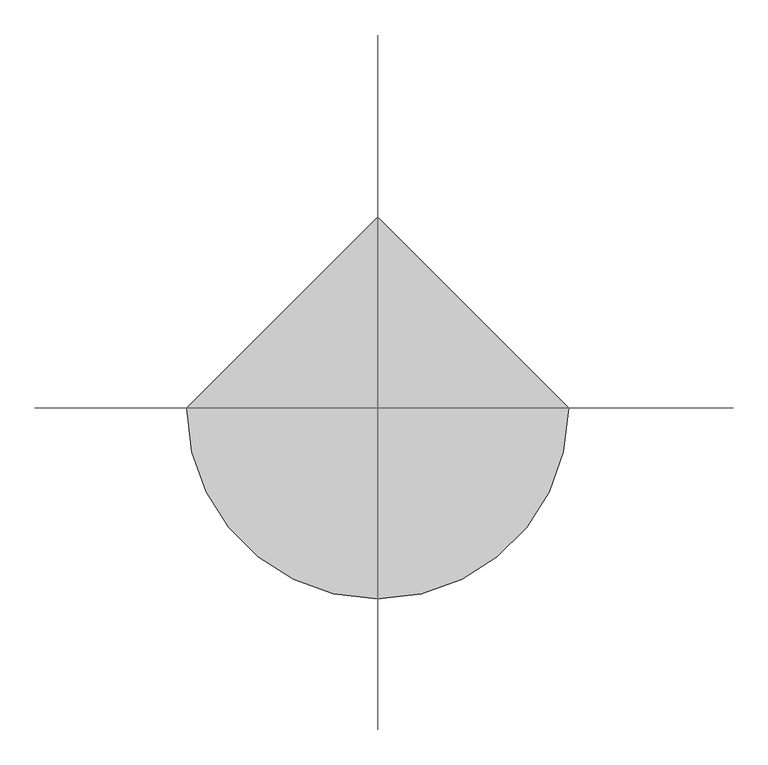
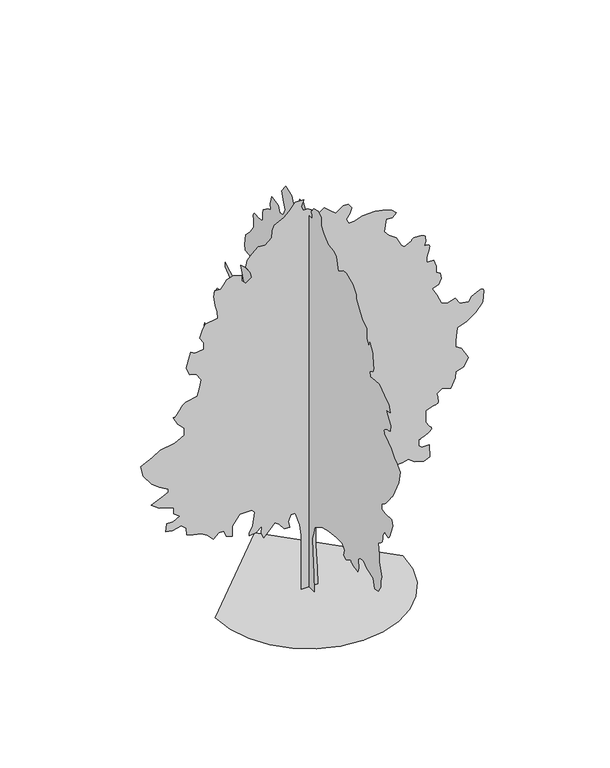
"""IFC4 building model written with IfcOpenShell, lengths in millimetres: geographic element geometry, RPC 树 - 落叶树 : 红枫 - 9 米."""

import ifcopenshell
import ifcopenshell.guid

model = None  # the IFC model being written
_history = None  # IfcOwnerHistory: only IFC2X3 demands one
_inside = {}  # id of a spatial element -> (the spatial element, [elements in it])
_under = {}  # id of a project, library or spatial element -> (it, [spatial elements below it])
_declared = {}  # id of a project -> (the project, [libraries it declares])
_typed = {}  # id of a type object -> (the type object, [elements of that type])
_made_of = {}  # id of a material, layer set ... -> (it, [elements and type objects made of it])


def new_model(schema):
    """Start an empty IFC model of exactly this schema.

    Asked for "IFC4X3", IfcOpenShell would pick the latest addendum, in which some entities
    have other attributes; the version numbers below select the first issue.
    IFC2X3 requires an IfcOwnerHistory on every rooted entity: one is made here for all.
    """
    global model, _history
    if schema == "IFC4X3":
        model = ifcopenshell.file(schema_version=(4, 3, 0, 0))
    else:
        model = ifcopenshell.file(schema=schema)
    _inside.clear()
    _under.clear()
    _declared.clear()
    _typed.clear()
    _made_of.clear()
    _history = None
    if model.schema == "IFC2X3":
        org = make("IfcOrganization", Name="unknown")
        user = make(
            "IfcPersonAndOrganization",
            ThePerson=make("IfcPerson", FamilyName="unknown"),
            TheOrganization=org,
        )
        app = make(
            "IfcApplication",
            ApplicationDeveloper=org,
            Version="unknown",
            ApplicationFullName="unknown",
            ApplicationIdentifier="unknown",
        )
        _history = make(
            "IfcOwnerHistory",
            OwningUser=user,
            OwningApplication=app,
            ChangeAction="ADDED",
            CreationDate=0,
        )
    return model


def make(cls, **values):
    """One entity of the class cls with the attributes given. An attribute that is None is left unset."""
    return model.create_entity(
        cls, **{name: value for name, value in values.items() if value is not None}
    )


def rooted(cls, **values):
    """An entity with a GlobalId (a new one), such as an element, a storey or a relation."""
    return make(cls, GlobalId=ifcopenshell.guid.new(), OwnerHistory=_history, **values)


def si_unit(unit_type, name, prefix=None):
    """IfcSIUnit, for example si_unit("LENGTHUNIT", "METRE", prefix="MILLI")."""
    return make("IfcSIUnit", UnitType=unit_type, Prefix=prefix, Name=name)


def assignment(units):
    """IfcUnitAssignment: the units of a project."""
    return None if units is None else make("IfcUnitAssignment", Units=units)


def point(xyz):
    """IfcCartesianPoint."""
    return None if xyz is None else make("IfcCartesianPoint", Coordinates=xyz)


def direction(xyz):
    """IfcDirection."""
    return None if xyz is None else make("IfcDirection", DirectionRatios=xyz)


def frame(location, z_axis=None, x_axis=None):
    """IfcAxis2Placement3D, a coordinate frame: its origin and axes. An axis left out is left unset."""
    return make(
        "IfcAxis2Placement3D",
        Location=point(location),
        Axis=direction(z_axis),
        RefDirection=direction(x_axis),
    )


def origin():
    """The frame at (0, 0, 0) with its axes left unset."""
    return frame((0.0, 0.0, 0.0))


def place(relative_to, where):
    """IfcLocalPlacement: puts the frame where relative to a parent placement (None: the world)."""
    return make(
        "IfcLocalPlacement", PlacementRelTo=relative_to, RelativePlacement=where
    )


def context(
    kind, dimensions, precision=None, world=None, true_north=None, identifier=None
):
    """IfcGeometricRepresentationContext, for example the 3D "Model" context."""
    return make(
        "IfcGeometricRepresentationContext",
        ContextIdentifier=identifier,
        ContextType=kind,
        CoordinateSpaceDimension=dimensions,
        Precision=precision,
        WorldCoordinateSystem=world,
        TrueNorth=true_north,
    )


def project(units=None, contexts=None):
    """IfcProject with its units and contexts."""
    return rooted(
        "IfcProject",
        Name="project",
        RepresentationContexts=contexts,
        UnitsInContext=assignment(units),
    )


def spatial(cls, under=None, at=None, **own):
    """A site, building, storey or space (cls), placed at a placement, below another one or the project."""
    s = rooted(cls, ObjectPlacement=at, **own)
    if under is not None:
        _under.setdefault(under.id(), (under, []))[1].append(s)
    return s


def point_list(points):
    """IfcCartesianPointList2D or 3D."""
    cls = (
        "IfcCartesianPointList2D" if len(points[0]) == 2 else "IfcCartesianPointList3D"
    )
    return make(cls, CoordList=points)


def triangles(points, corners, closed=None, point_numbers=None):
    """IfcTriangulatedFaceSet: each triangle names its three corners, points numbered from 1."""
    return make(
        "IfcTriangulatedFaceSet",
        Coordinates=point_list(points),
        Closed=closed,
        CoordIndex=corners,
        PnIndex=point_numbers,
    )


def shape(context_of_items, identifier, shape_type, items):
    """IfcShapeRepresentation: the items that make up one representation, for example the "Body"."""
    return make(
        "IfcShapeRepresentation",
        ContextOfItems=context_of_items,
        RepresentationIdentifier=identifier,
        RepresentationType=shape_type,
        Items=items,
    )


def source(mapping_origin, context_of_items, identifier, shape_type, items):
    """IfcRepresentationMap: a shape defined once, which mapped items show again and again."""
    return make(
        "IfcRepresentationMap",
        MappingOrigin=mapping_origin,
        MappedRepresentation=shape(context_of_items, identifier, shape_type, items),
    )


def transform(
    local_origin,
    x_axis=None,
    y_axis=None,
    z_axis=None,
    scale=None,
    scale2=None,
    scale3=None,
    uniform=True,
):
    """IfcCartesianTransformationOperator3D, or its non-uniform kind. x_axis, y_axis, z_axis: its Axis1, 2, 3."""
    if uniform:
        return make(
            "IfcCartesianTransformationOperator3D",
            Axis1=direction(x_axis),
            Axis2=direction(y_axis),
            LocalOrigin=point(local_origin),
            Scale=scale,
            Axis3=direction(z_axis),
        )
    return make(
        "IfcCartesianTransformationOperator3DnonUniform",
        Axis1=direction(x_axis),
        Axis2=direction(y_axis),
        LocalOrigin=point(local_origin),
        Scale=scale,
        Axis3=direction(z_axis),
        Scale2=scale2,
        Scale3=scale3,
    )


def mapped(mapping_source, mapping_target):
    """IfcMappedItem: shows the shape of a source again, moved by a transform."""
    return make(
        "IfcMappedItem", MappingSource=mapping_source, MappingTarget=mapping_target
    )


def made_of(thing, what):
    """Note that an element or type object is made of a material, layer set ...; save() writes the relation."""
    if what is not None:
        _made_of.setdefault(what.id(), (what, []))[1].append(thing)
    return thing


def element(
    cls,
    number,
    at=None,
    inside=None,
    cuts=None,
    type_object=None,
    material=None,
    context=None,
    identifier="Body",
    shape_type=None,
    held_by="IfcProductDefinitionShape",
    body=None,
    shapes=None,
    **own,
):
    """One element of the class cls, such as IfcWall. Its Tag is "e" and its number.

    at: its placement. inside: the storey or other place that contains it. cuts: it is an
    opening in that element (IfcRelVoidsElement). A single representation is given by context,
    identifier, shape_type and body (its items); several are given by shapes. held_by: the class
    of the entity that holds the representations. save() writes the other relations.
    """
    e = rooted(cls, Tag="e%d" % number, ObjectPlacement=at, **own)
    if body is not None:
        shapes = [shape(context, identifier, shape_type, body)]
    if shapes is not None:
        e.Representation = make(held_by, Representations=shapes)
    if inside is not None:
        _inside.setdefault(inside.id(), (inside, []))[1].append(e)
    if cuts is not None:
        rooted(
            "IfcRelVoidsElement", RelatingBuildingElement=cuts, RelatedOpeningElement=e
        )
    if type_object is not None:
        _typed.setdefault(type_object.id(), (type_object, []))[1].append(e)
    return made_of(e, material)


def aggregate(whole, parts):
    """IfcRelAggregates: a whole, such as a stair, and the parts it consists of."""
    return rooted("IfcRelAggregates", RelatingObject=whole, RelatedObjects=parts)


def save(model, path):
    """Write the relations noted so far, then the file.

    IfcRelAggregates (storeys below a building ...), IfcRelContainedInSpatialStructure (elements
    in a storey), IfcRelDefinesByType, IfcRelAssociatesMaterial and IfcRelDeclares: one each for
    every whole, place, type object, material and project.
    """
    for whole, parts in _under.values():
        aggregate(whole, parts)
    for where, things in _inside.values():
        rooted(
            "IfcRelContainedInSpatialStructure",
            RelatedElements=things,
            RelatingStructure=where,
        )
    for kind, things in _typed.values():
        rooted("IfcRelDefinesByType", RelatedObjects=things, RelatingType=kind)
    for what, things in _made_of.values():
        rooted("IfcRelAssociatesMaterial", RelatedObjects=things, RelatingMaterial=what)
    for by, libraries in _declared.values():
        rooted("IfcRelDeclares", RelatingContext=by, RelatedDefinitions=libraries)
    model.write(path)


def geographic_element_3358a221(model_context):
    return source(origin(), model_context, "Body", "Tessellation", [
        triangles([(5.8e-06, 197.3661507, 0.0129526), (5.8e-06, -197.3841547, 0.0129526), (5.8e-06, -171.0676469, 394.7628227), (5.8e-06, -144.750367, 907.9407286), (5.8e-06, -131.5926036, 1197.4234949), (5.8e-06, -171.0676469, 1342.1660408), (5.8e-06, -223.7014255, 1513.2237682), (5.8e-06, -315.8102654, 1565.8587822), (5.8e-06, -526.342909, 1684.2838211), (5.8e-06, -750.035614, 1736.9163643), (5.8e-06, -1052.6783329, 1776.3914257), (5.8e-06, -1263.2109764, 1776.3914257), (5.8e-06, -1355.318581, 1671.1238686), (5.8e-06, -1315.8435196, 1526.38125), (5.8e-06, -1421.1110767, 1486.9061886), (5.8e-06, -1592.1712749, 1579.016264), (5.8e-06, -1595.2388203, 1567.7362839), (5.8e-06, -1599.8038033, 1556.4587746), (5.8e-06, -1607.3613361, 1545.1812653), (5.8e-06, -1619.4088566, 1533.9012852), (5.8e-06, -1637.4388607, 1522.6237759), (5.8e-06, -1662.9487862, 1511.3436504), (5.8e-06, -1697.4363613, 1500.0661411), (5.8e-06, -1733.4588718, 1490.3212418), (5.8e-06, -1763.2689709, 1483.3386738), (5.8e-06, -1787.8963921, 1478.6611977), (5.8e-06, -1808.3814789, 1475.8212547), (5.8e-06, -1825.7589066, 1474.3636402), (5.8e-06, -1841.0665478, 1473.826173), (5.8e-06, -1855.3364616, 1473.7487068), (5.8e-06, -1881.6540413, 1565.8587822), (5.8e-06, -1868.4965595, 1763.2339439), (5.8e-06, -1947.446537, 1842.1839214), (5.8e-06, -2079.029203, 1855.3415485), (5.8e-06, -2184.2967602, 1750.0738461), (5.8e-06, -2434.3044651, 1671.1238686), (5.8e-06, -2500.1020477, 1473.7487068), (5.8e-06, -2618.5270866, 1486.9061886), (5.8e-06, -2723.7770576, 1644.8087597), (5.8e-06, -2723.7770576, 1776.3914257), (5.8e-06, -2750.102195, 1881.6589828), (5.8e-06, -2658.0020027, 2184.299231), (5.8e-06, -2658.0020027, 2355.3594292), (5.8e-06, -2631.6771561, 2618.5270866), (5.8e-06, -2634.7022621, 2618.6770775), (5.8e-06, -2639.0019997, 2619.7520119), (5.8e-06, -2645.8271645, 2622.677124), (5.8e-06, -2656.4520973, 2628.3520683), (5.8e-06, -2672.1523018, 2637.702079), (5.8e-06, -2694.1771202, 2651.6770981), (5.8e-06, -2723.7770576, 2671.1520721), (5.8e-06, -2752.6273315, 2695.2520546), (5.8e-06, -2772.5022812, 2722.1021599), (5.8e-06, -2784.9021057, 2751.2521248), (5.8e-06, -2791.3022964, 2782.2522675), (5.8e-06, -2793.227179, 2814.6273262), (5.8e-06, -2792.1522446, 2847.9273285), (5.8e-06, -2789.5771111, 2881.7023018), (5.8e-06, -2868.5272339, 3013.2774101), (5.8e-06, -2899.4523811, 2993.9524269), (5.8e-06, -2929.8022728, 2977.0272972), (5.8e-06, -2958.9775269, 2964.9524529), (5.8e-06, -2986.4523033, 2960.1024582), (5.8e-06, -3011.6275108, 2964.9524529), (5.8e-06, -3033.902314, 2981.8522934), (5.8e-06, -3052.7523262, 3013.2774101), (5.8e-06, -3184.3274345, 3329.0776108), (5.8e-06, -3144.8525185, 3460.6527191), (5.8e-06, -2894.8523712, 3447.5026497), (5.8e-06, -2750.102195, 3460.6527191), (5.8e-06, -2763.2522644, 3592.2528259), (5.8e-06, -2797.1272316, 3612.2280602), (5.8e-06, -2831.2521835, 3633.7029121), (5.8e-06, -2865.8024002, 3658.1778717), (5.8e-06, -2901.0522835, 3687.1528473), (5.8e-06, -2937.227401, 3722.1030396), (5.8e-06, -2974.5774467, 3764.5280663), (5.8e-06, -3013.2774101, 3815.9281265), (5.8e-06, -3049.3025368, 3866.5782326), (5.8e-06, -3079.102462, 3906.8530998), (5.8e-06, -3103.7274124, 3938.5032028), (5.8e-06, -3124.2276146, 3963.2531456), (5.8e-06, -3141.6024261, 3982.8031151), (5.8e-06, -3156.902655, 3998.9282936), (5.8e-06, -3171.1776558, 4013.3032883), (5.8e-06, -3394.8776642, 4460.7035957), (5.8e-06, -3460.6527191, 4750.1789497), (5.8e-06, -3315.9275414, 4908.0789047), (5.8e-06, -3250.1274879, 4921.2292648), (5.8e-06, -3105.3776024, 5105.4540665), (5.8e-06, -3013.2774101, 5171.2541199), (5.8e-06, -2976.8773064, 5188.2792435), (5.8e-06, -2941.9524033, 5206.0043243), (5.8e-06, -2910.027317, 5225.1043213), (5.8e-06, -2882.6022469, 5246.2791916), (5.8e-06, -2861.1773918, 5270.2294739), (5.8e-06, -2847.2023727, 5297.6045471), (5.8e-06, -2842.2023872, 5329.1543655), (5.8e-06, -2849.1272552, 5359.9042328), (5.8e-06, -2868.4522385, 5385.1544357), (5.8e-06, -2898.1524605, 5405.8043381), (5.8e-06, -2936.1274681, 5422.7544662), (5.8e-06, -2980.3273865, 5436.9541809), (5.8e-06, -3028.6523438, 5449.3045898), (5.8e-06, -3079.0524651, 5460.7294739), (5.8e-06, -3092.227533, 5605.4793594), (5.8e-06, -3026.4274796, 5710.7293304), (5.8e-06, -2921.1522194, 5855.4797974), (5.8e-06, -3079.0524651, 5894.9547134), (5.8e-06, -3026.4274796, 6052.8549591), (5.8e-06, -2855.3771645, 6158.1299286), (5.8e-06, -2658.0020027, 6302.8548157), (5.8e-06, -2486.9394791, 6289.7050369), (5.8e-06, -2329.0393787, 6276.5552582), (5.8e-06, -2302.7217991, 6381.8052292), (5.8e-06, -2381.6719219, 6434.4549225), (5.8e-06, -2395.6744102, 6437.4803192), (5.8e-06, -2409.1019337, 6441.7800568), (5.8e-06, -2421.3769112, 6448.6052216), (5.8e-06, -2431.9269939, 6459.2301544), (5.8e-06, -2440.174601, 6474.9303589), (5.8e-06, -2445.5443314, 6496.9551773), (5.8e-06, -2447.464563, 6526.5551147), (5.8e-06, -2446.3120171, 6563.455188), (5.8e-06, -2443.0918648, 6605.8805054), (5.8e-06, -2438.1420216, 6652.9305405), (5.8e-06, -2431.81203, 6703.6303528), (5.8e-06, -2424.4469273, 6757.1055771), (5.8e-06, -2416.3894249, 6812.4306885), (5.8e-06, -2407.9895016, 6868.6807434), (5.8e-06, -2302.7217991, 7052.905545), (5.8e-06, -2263.246883, 6947.6305756), (5.8e-06, -2197.4542419, 7066.0559052), (5.8e-06, -2197.4542419, 7316.0557617), (5.8e-06, -2026.3966599, 7421.3307312), (5.8e-06, -1907.9714756, 7579.2309769), (5.8e-06, -1789.5464367, 7750.2810013), (5.8e-06, -1789.5464367, 7842.406192), (5.8e-06, -1657.9612999, 8000.3064377), (5.8e-06, -1421.1110767, 8118.7317673), (5.8e-06, -1289.5285561, 8092.4066299), (5.8e-06, -1118.4684305, 7973.9813004), (5.8e-06, -1026.3608259, 8263.4566544), (5.8e-06, -934.2507505, 8329.2567078), (5.8e-06, -723.718107, 8355.5818451), (5.8e-06, -565.8179704, 8513.4820908), (5.8e-06, -460.552884, 8631.906839), (5.8e-06, -460.552884, 8816.1072235), (5.8e-06, -342.1277724, 8895.0570557), (5.8e-06, -184.2254012, 8855.5821396), (5.8e-06, -92.1178238, 8737.15681), (5.8e-06, -105.8898393, 8706.3569458), (5.8e-06, -117.7053427, 8676.8070053), (5.8e-06, -125.607849, 8649.8069092), (5.8e-06, -127.6411006, 8626.6071625), (5.8e-06, -121.8483492, 8608.4571075), (5.8e-06, -106.2730826, 8596.6316666), (5.8e-06, -78.9590612, 8592.4319229), (5.8e-06, 105.2585824, 8592.4319229), (5.8e-06, 223.6836758, 8763.4819473), (5.8e-06, 355.2677771, 8750.3321686), (5.8e-06, 421.0578383, 8592.4319229), (5.8e-06, 592.1179639, 8513.4820908), (5.8e-06, 657.9080252, 8645.0571991), (5.8e-06, 881.6006939, 8737.15681), (5.8e-06, 1026.3433125, 8539.7816483), (5.8e-06, 960.5507441, 8316.106929), (5.8e-06, 907.9182009, 8171.3564621), (5.8e-06, 973.7107693, 8013.4562164), (5.8e-06, 1105.2933626, 7987.1316605), (5.8e-06, 1157.9259058, 8131.881546), (5.8e-06, 1421.0936359, 8158.2066833), (5.8e-06, 1473.7286499, 7973.9813004), (5.8e-06, 1447.4112156, 7842.406192), (5.8e-06, 1565.8362545, 7802.9312759), (5.8e-06, 1736.8938366, 7671.3311691), (5.8e-06, 1750.0539345, 7579.2309769), (5.8e-06, 1750.0539345, 7421.3307312), (5.8e-06, 1815.8439594, 7381.8558151), (5.8e-06, 1973.7440598, 7381.8558151), (5.8e-06, 2004.5116585, 7387.106076), (5.8e-06, 2033.7816742, 7390.055896), (5.8e-06, 2060.05914, 7388.4059967), (5.8e-06, 2081.8492344, 7379.8559372), (5.8e-06, 2097.654229, 7362.1058578), (5.8e-06, 2105.9791569, 7332.8309006), (5.8e-06, 2105.3291965, 7289.7556229), (5.8e-06, 2100.4566742, 7242.4306046), (5.8e-06, 2096.9666256, 7201.3557861), (5.8e-06, 2094.6266521, 7165.4556519), (5.8e-06, 2093.2066807, 7133.6808472), (5.8e-06, 2092.476638, 7105.0308517), (5.8e-06, 2092.2092125, 7078.4307312), (5.8e-06, 2092.1717148, 7052.905545), (5.8e-06, 2223.7542355, 6868.6807434), (5.8e-06, 2394.8119629, 6697.6301376), (5.8e-06, 2434.2870243, 6447.6052826), (5.8e-06, 2407.9719154, 6329.179953), (5.8e-06, 2276.3867786, 6316.0301743), (5.8e-06, 2171.1216923, 6289.7050369), (5.8e-06, 2092.1717148, 6118.6550125), (5.8e-06, 2197.4368011, 5921.2798508), (5.8e-06, 2434.2870243, 5921.2798508), (5.8e-06, 2592.1769508, 5868.6295761), (5.8e-06, 2460.6044586, 5526.5295273), (5.8e-06, 2579.0271721, 5394.9294205), (5.8e-06, 2907.9774422, 5434.4043365), (5.8e-06, 3000.1023422, 5487.0546112), (5.8e-06, 3184.3024361, 5579.1542221), (5.8e-06, 3171.1526573, 5487.0546112), (5.8e-06, 2934.3022888, 5276.5040909), (5.8e-06, 2842.2023872, 4987.0293182), (5.8e-06, 2947.4523582, 4763.3287285), (5.8e-06, 3092.2025345, 4776.5037964), (5.8e-06, 3095.3776314, 4790.453817), (5.8e-06, 3100.752594, 4803.6288849), (5.8e-06, 3110.5025803, 4815.1787613), (5.8e-06, 3126.8024574, 4824.3037857), (5.8e-06, 3151.8526726, 4830.204007), (5.8e-06, 3187.8525101, 4832.0788925), (5.8e-06, 3236.9527107, 4829.1287819), (5.8e-06, 3473.8027885, 4802.8039352), (5.8e-06, 3592.2278275, 4631.7536201), (5.8e-06, 3552.7529114, 4447.5285278), (5.8e-06, 3408.0027351, 4342.2785568), (5.8e-06, 3289.5776962, 4052.7782043), (5.8e-06, 3342.2026817, 3868.5781105), (5.8e-06, 3394.8526657, 3802.7780571), (5.8e-06, 3526.427774, 3579.077758), (5.8e-06, 3789.6029892, 3605.4028954), (5.8e-06, 3960.6533043, 3710.6778648), (5.8e-06, 4013.2782898, 3473.827787), (5.8e-06, 3763.2781425, 3355.4027481), (5.8e-06, 3592.2278275, 3302.7527641), (5.8e-06, 3473.8027885, 3039.6025475), (5.8e-06, 3408.0027351, 2881.7023018), (5.8e-06, 3329.0526123, 2658.0020027), (5.8e-06, 3184.3024361, 2684.32714), (5.8e-06, 2960.6274261, 2723.8020561), (5.8e-06, 2776.4023338, 2684.32714), (5.8e-06, 2644.8272255, 2473.7844681), (5.8e-06, 2815.8772499, 2302.726886), (5.8e-06, 2973.7774956, 2276.4093063), (5.8e-06, 3000.1023422, 2026.3991306), (5.8e-06, 2988.6274612, 2001.2715946), (5.8e-06, 2976.0023598, 1977.6416416), (5.8e-06, 2961.0773987, 1957.0016224), (5.8e-06, 2942.7023575, 1940.8515907), (5.8e-06, 2919.7273064, 1930.6865135), (5.8e-06, 2891.0023155, 1928.001503), (5.8e-06, 2855.352166, 1934.291526), (5.8e-06, 2818.1774002, 1946.7215813), (5.8e-06, 2785.1523811, 1961.2215683), (5.8e-06, 2755.5771515, 1977.4490662), (5.8e-06, 2728.7523354, 1995.0591831), (5.8e-06, 2704.0271004, 2013.7016499), (5.8e-06, 2680.6520737, 2033.0366615), (5.8e-06, 2657.9770042, 2052.7167103), (5.8e-06, 2565.8771027, 2157.9842674), (5.8e-06, 2548.8019821, 2185.796814), (5.8e-06, 2530.801918, 2211.3067394), (5.8e-06, 2510.9769653, 2232.2143295), (5.8e-06, 2488.3795074, 2246.2168179), (5.8e-06, 2462.0994255, 2251.011874), (5.8e-06, 2431.219479, 2244.2993477), (5.8e-06, 2394.8119629, 2223.7767632), (5.8e-06, 2349.1993401, 2197.1142918), (5.8e-06, 2292.5368103, 2173.2142971), (5.8e-06, 2226.6693192, 2151.6167782), (5.8e-06, 2153.4342545, 2131.8592632), (5.8e-06, 2074.6767071, 2113.484222), (5.8e-06, 1992.236681, 2096.0291828), (5.8e-06, 1907.9540348, 2079.0341446), (5.8e-06, 1697.4189205, 2026.3991306), (5.8e-06, 1763.2114162, 1894.8164646), (5.8e-06, 1973.7440598, 1763.2339439), (5.8e-06, 2079.0116169, 1592.1737457), (5.8e-06, 1894.7940823, 1526.38125), (5.8e-06, 1869.3215092, 1526.5736801), (5.8e-06, 1843.2739712, 1527.9161854), (5.8e-06, 1816.0740326, 1531.5611664), (5.8e-06, 1787.1489086, 1538.6586983), (5.8e-06, 1755.9214542, 1550.3587109), (5.8e-06, 1721.8164139, 1567.8137501), (5.8e-06, 1684.2612934, 1592.1737457), (5.8e-06, 1645.5537724, 1620.7538326), (5.8e-06, 1608.2262543, 1650.0238483), (5.8e-06, 1572.0512821, 1679.8712997), (5.8e-06, 1536.796312, 1710.1764267), (5.8e-06, 1502.2312706, 1740.8289162), (5.8e-06, 1468.1262302, 1771.7114788), (5.8e-06, 1434.2511177, 1802.7090054), (5.8e-06, 1171.085931, 1881.6589828), (5.8e-06, 960.5507441, 1921.1340443), (5.8e-06, 750.0181005, 1973.7665874), (5.8e-06, 539.4829499, 1934.291526), (5.8e-06, 249.9999474, 1829.0239689), (5.8e-06, 171.0498791, 1723.7588825), (5.8e-06, 105.2585824, 1539.5412025), (5.8e-06, 78.9410663, 1276.3735451), (5.8e-06, 105.2585824, 921.0982103), (5.8e-06, 157.8911256, 407.9228116), (-2052.3641155, 0.0, 0.0), (-1998.1066715, -470.2653726, 0.0), (-1843.5815105, -902.1307634, 0.0), (-1601.1612785, -1283.2184761, 0.0), (-1283.2184761, -1601.1612785, 0.0), (-902.1307634, -1843.5815105, 0.0), (-470.2653726, -1998.1066715, 0.0), (8.97e-05, -2052.3641155, 0.0), (470.2653726, -1998.1066715, 0.0), (902.1307634, -1843.5815105, 0.0), (1283.2184761, -1601.1612785, 0.0), (1601.1612785, -1283.2184761, 0.0), (1843.5815105, -902.1307634, 0.0), (1998.1066715, -470.2653726, 0.0), (2052.3641155, 0.0001799, 0.0), (-0.0002691, 2052.3641155, 0.0), (196.7396627, 0.0002249, 0.0051811), (-167.0323917, 0.0002249, 0.0051811), (-167.0323917, 0.0001889, 673.6580086), (-167.0323917, 0.0001619, 1023.9583563), (-167.0323917, 0.0001529, 1252.9985184), (-207.4516724, 0.0001349, 1508.988707), (-301.7627399, 0.0001169, 1805.3940159), (-396.0753153, 0.0001169, 1805.3940159), (-449.967847, 0.0001259, 1657.1912888), (-423.0203276, 0.0001349, 1522.4612858), (-544.2779334, 0.0001349, 1535.9337193), (-652.0630331, 0.0001259, 1670.6638676), (-746.3755903, 0.0001259, 1738.0289417), (-854.1581829, 0.0001259, 1616.7713722), (-988.8883312, 0.0001349, 1482.0412239), (-1042.7808266, 0.0001349, 1603.2987934), (-1029.3083204, 0.0001259, 1764.9764248), (-1164.0384687, 0.0001259, 1657.1912888), (-1312.243594, 0.0001259, 1643.7188553), (-1312.243594, 0.0001259, 1711.0839294), (-1231.4034702, 0.0001169, 1845.8139324), (-1190.9859518, 9.89e-05, 2142.2217121), (-1258.3509533, 9.89e-05, 2209.5867863), (-1514.3386711, 9.89e-05, 2209.5867863), (-1676.0138317, 0.0001079, 1980.5440807), (-1676.0138317, 0.0001169, 1886.2339943), (-1676.0138317, 0.0001259, 1751.503846), (-1810.7464508, 0.0001169, 1805.3940159), (-1864.6389462, 0.0001079, 1940.126635), (-1972.4216114, 0.0001079, 1940.126635), (-2093.6791809, 0.0001169, 1832.3414989), (-2228.4093292, 0.0001079, 1967.0716473), (-2363.1419483, 0.0001079, 2047.9091549), (-2538.3020416, 9.89e-05, 2088.3292168), (-2673.0272484, 9.89e-05, 2142.2217121), (-2686.502298, 8.99e-05, 2290.4242939), (-2794.2771149, 8.1e-05, 2384.7369965), (-2996.3772789, 8.99e-05, 2344.3169346), (-3131.1024857, 8.1e-05, 2371.2644176), (-3117.6274361, 7.2e-05, 2546.4021286), (-2969.4274704, 7.2e-05, 2546.4021286), (-2834.7022636, 7.2e-05, 2627.2521355), (-2955.9524208, 6.3e-05, 2721.5521935), (-2955.9524208, 5.4e-05, 2856.3023987), (-3090.6776276, 5.4e-05, 2910.1773079), (-3279.302742, 5.4e-05, 2964.0775063), (-3454.4528069, 4.5e-05, 3098.8024223), (-3238.8775932, 3.6e-05, 3193.1274788), (-3077.202578, 3.6e-05, 3260.4777283), (-3077.202578, 2.7e-05, 3327.8526855), (-3279.302742, 1.8e-05, 3449.1028427), (-3440.9777573, 1.8e-05, 3570.3779984), (-3629.6028717, 0.0, 3826.3530716), (-3683.5030701, -1.8e-05, 4068.8783844), (-3575.7279625, -1.8e-05, 4122.7532936), (-3427.5027077, -2.7e-05, 4190.1282509), (-3252.3526428, -2.7e-05, 4297.9033585), (-2942.4773712, -3.6e-05, 4351.8035568), (-2726.9021576, -3.6e-05, 4459.5786644), (-2726.9021576, -4.5e-05, 4621.2536797), (-2875.1274124, -5.4e-05, 4769.4789345), (-2969.4274704, -7.2e-05, 4944.6289993), (-2960.6274261, -7.2e-05, 4942.0541565), (-2951.0024323, -7.2e-05, 4941.5041901), (-2939.7272484, -7.2e-05, 4944.978978), (-2925.9775063, -7.2e-05, 4954.4289825), (-2908.9273842, -7.2e-05, 4971.9040787), (-2887.7772217, -7.2e-05, 4999.4041443), (-2861.6523628, -7.2e-05, 5038.9290573), (-2833.9523094, -7.2e-05, 5080.8038269), (-2808.3771263, -8.1e-05, 5114.904071), (-2784.5771255, -8.1e-05, 5142.5041306), (-2762.17733, -8.1e-05, 5164.9289246), (-2740.8521782, -8.1e-05, 5183.4789551), (-2720.2272743, -8.1e-05, 5199.4291443), (-2699.9770569, -8.1e-05, 5214.0794128), (-2443.9796013, -8.99e-05, 5267.9790298), (-2390.0869606, -9.89e-05, 5456.6041443), (-2363.1419483, -0.0001079, 5618.2797409), (-2470.9270844, -0.0001169, 5779.9547562), (-2605.6520004, -0.0001169, 5820.3546158), (-2686.502298, -0.0001349, 5995.5049713), (-2632.6020996, -0.0001439, 6184.1300858), (-2592.1769508, -0.0001529, 6332.3303421), (-2497.8719513, -0.0001439, 6278.4551422), (-2309.2493076, -0.0001529, 6305.4052414), (-2309.2493076, -0.0001619, 6453.6054977), (-2390.0869606, -0.0001619, 6588.3304138), (-2336.1943199, -0.0001709, 6736.5306702), (-2268.8293911, -0.0001799, 6871.2555862), (-1999.3690945, -0.0001889, 6911.6804443), (-2012.8416733, -0.0001979, 7073.3554596), (-2053.2615898, -0.0002069, 7221.5557159), (-2080.2067474, -0.0002159, 7437.1309296), (-2066.7341686, -0.0002249, 7571.8558456), (-1932.0040203, -0.0002249, 7558.3810867), (-1864.6389462, -0.0002249, 7639.2313843), (-1797.2740173, -0.0002339, 7733.5314423), (-1662.5413982, -0.0002339, 7773.9563004), (-1473.9187546, -0.0002339, 7720.056102), (-1473.9187546, -0.0002249, 7598.8059448), (-1379.6086681, -0.0002249, 7504.5058868), (-1258.3509533, -0.0002249, 7598.8059448), (-1285.2959656, -0.0002339, 7733.5314423), (-1379.6086681, -0.0002429, 7881.7311172), (-1352.6610397, -0.0002519, 8029.9563721), (-1244.876049, -0.0002609, 8137.7317703), (-1110.1459007, -0.0002698, 8258.9819275), (-961.9432463, -0.0002609, 8245.5065872), (-813.7406645, -0.0002698, 8366.7817429), (-800.2656149, -0.0002788, 8514.9819992), (-759.8480965, -0.0002878, 8636.2321564), (-557.7504395, -0.0002968, 8730.5572128), (-436.49287, -0.0002968, 8838.3320297), (-301.7627399, -0.0003058, 9000.007045), (-113.1403415, -0.0003058, 9000.007045), (-167.0323917, -0.0002968, 8851.80737), (-126.6133563, -0.0002968, 8757.4823135), (-32.3020254, -0.0002968, 8757.4823135), (48.5362907, -0.0002878, 8703.6071136), (75.4823112, -0.0002878, 8595.8067169), (237.1586891, -0.0002878, 8582.331958), (331.4702834, -0.0002878, 8649.7069153), (466.2003591, -0.0002788, 8541.9320984), (587.4579649, -0.0002788, 8434.1317017), (749.1355963, -0.0002788, 8555.4068573), (856.9206596, -0.0002788, 8555.4068573), (937.7582399, -0.0002788, 8447.6070419), (897.3382507, -0.0002698, 8312.8815445), (816.5006704, -0.0002609, 8218.5814865), (870.3932384, -0.0002609, 8110.7816711), (991.650808, -0.0002609, 8110.7816711), (1180.2734516, -0.0002609, 8178.1566284), (1449.7336029, -0.0002609, 8178.1566284), (1611.4112343, -0.0002609, 8151.2065292), (1813.5064568, -0.0002519, 8083.831572), (1907.819014, -0.0002519, 7989.531514), (1826.9790356, -0.0002429, 7895.2064575), (1692.2488873, -0.0002429, 7908.6812164), (1665.303875, -0.0002339, 7787.4310593), (1651.8288254, -0.0002249, 7639.2313843), (1746.1413826, -0.0002249, 7517.9812271), (1907.819014, -0.0002159, 7410.1808304), (2015.6016792, -0.0001979, 7194.6056168), (2082.9667534, -0.0001979, 7140.7309982), (2244.6443848, -0.0002069, 7221.5557159), (2247.8267487, -0.0002069, 7233.0305969), (2252.7742664, -0.0002069, 7244.0310883), (2261.259359, -0.0002069, 7254.0810562), (2275.0468895, -0.0002069, 7262.7311096), (2295.9043373, -0.0002069, 7269.4806976), (2325.5993271, -0.0002069, 7273.8810104), (2365.9019543, -0.0002069, 7275.4559143), (2407.7743984, -0.0002069, 7273.8810104), (2441.8695557, -0.0002069, 7269.4806976), (2469.4844398, -0.0002069, 7262.7311096), (2491.9121407, -0.0002069, 7254.0810562), (2510.4519974, -0.0002069, 7244.0310883), (2526.4018959, -0.0002069, 7233.0305969), (2541.0521645, -0.0002069, 7221.5557159), (2554.5269234, -0.0001979, 7100.3055588), (2527.5771149, -0.0001889, 7006.0055008), (2558.951944, -0.0001889, 7005.5555283), (2588.1021996, -0.0001889, 7002.5307129), (2612.7771469, -0.0001889, 6994.330632), (2630.7272141, -0.0001889, 6978.3304459), (2639.7272461, -0.0001889, 6951.9808914), (2637.5270897, -0.0001889, 6912.6553848), (2621.9021713, -0.0001799, 6857.7808273), (2602.3272034, -0.0001799, 6799.7802979), (2589.127137, -0.0001799, 6751.6553284), (2581.2270378, -0.0001709, 6711.7804367), (2577.5769699, -0.0001709, 6678.5051422), (2577.1019989, -0.0001709, 6650.2051254), (2578.7521889, -0.0001709, 6625.1804901), (2581.4770226, -0.0001709, 6601.8051727), (2729.6772789, -0.0001709, 6601.8051727), (2783.5771866, -0.0001529, 6440.1301575), (2783.5771866, -0.0001529, 6305.4052414), (2877.8772446, -0.0001439, 6251.505043), (2891.3522942, -0.0001349, 6130.2548859), (2837.4523865, -0.0001349, 6008.9797302), (2702.7271797, -0.0001259, 5955.1045303), (2797.0522362, -0.0001169, 5779.9547562), (2891.3522942, -0.0001079, 5564.3795425), (3026.0775009, -9.89e-05, 5497.0045853), (3201.2275658, -0.0001079, 5550.9042023), (3295.5526222, -9.89e-05, 5402.7045273), (3497.6277878, -8.99e-05, 5375.7544281), (3565.0027451, -9.89e-05, 5470.0544861), (3619.4779083, -9.89e-05, 5501.3043228), (3671.7279167, -9.89e-05, 5529.3293564), (3719.5029076, -0.0001079, 5551.0291946), (3760.5280197, -0.0001079, 5563.1546173), (3792.6280952, -0.0001079, 5562.5796524), (3813.5279823, -0.0001079, 5546.0794968), (3821.0031075, -9.89e-05, 5510.4793442), (3820.2031563, -9.89e-05, 5465.8541611), (3818.0029999, -9.89e-05, 5424.0793854), (3814.6282059, -8.99e-05, 5384.6294678), (3810.3031792, -8.99e-05, 5347.0794342), (3805.2781952, -8.99e-05, 5310.9543137), (3799.7779495, -8.99e-05, 5275.7541367), (3794.0530083, -8.99e-05, 5241.029512), (3645.8530426, -7.2e-05, 5079.3539154), (3457.2279282, -6.3e-05, 4931.1542404), (3241.6527145, -6.3e-05, 4863.7789925), (3214.7026154, -4.5e-05, 4567.3787704), (3214.7026154, -3.6e-05, 4432.6285652), (3335.9527725, -3.6e-05, 4351.8035568), (3484.1777367, -1.8e-05, 4095.8031944), (3389.8526802, -9e-06, 3907.2030785), (3214.7026154, 0.0, 3853.3031708), (3201.2275658, 9e-06, 3718.577964), (3106.9275078, 1.8e-05, 3503.0027504), (2918.3023933, 1.8e-05, 3570.3779984), (2801.5522522, 1.8e-05, 3481.1779198), (2800.6773056, 1.8e-05, 3482.6028328), (2800.3023285, 1.8e-05, 3481.8278801), (2800.9522888, 1.8e-05, 3476.6779037), (2803.1271561, 1.8e-05, 3464.9277489), (2807.3521889, 1.8e-05, 3444.4028389), (2814.1523552, 2.7e-05, 3412.9277252), (2823.9773369, 2.7e-05, 3368.2778343), (2830.0272583, 2.7e-05, 3322.9776924), (2826.1772026, 2.7e-05, 3289.7026886), (2814.0773598, 3.6e-05, 3266.4526543), (2795.4023369, 3.6e-05, 3251.202713), (2771.752327, 3.6e-05, 3241.9776947), (2744.8022278, 3.6e-05, 3236.7527229), (2716.2022293, 3.6e-05, 3233.5276291), (2554.5269234, 3.6e-05, 3179.6524292), (2554.5269234, 5.4e-05, 2910.1773079), (2635.3522224, 6.3e-05, 2788.9271507), (2655.0521828, 6.3e-05, 2771.5273407), (2671.5520477, 6.3e-05, 2753.652269), (2681.6773018, 6.3e-05, 2734.8272552), (2682.2522667, 6.3e-05, 2714.602327), (2670.1271347, 6.3e-05, 2692.5022224), (2642.0771027, 7.2e-05, 2668.0272629), (2594.9520721, 7.2e-05, 2640.7271851), (2543.4770164, 7.2e-05, 2615.3769882), (2503.35214, 7.2e-05, 2596.4269821), (2472.6243645, 7.2e-05, 2582.7519447), (2449.4496162, 7.2e-05, 2573.3269386), (2431.9319355, 7.2e-05, 2567.0770294), (2418.1845188, 7.2e-05, 2562.9519905), (2406.3218708, 7.2e-05, 2559.8771782), (2406.3218708, 8.1e-05, 2425.156913), (2473.6870903, 8.99e-05, 2357.7893681), (2635.3522224, 8.99e-05, 2357.7893681), (2648.827272, 9.89e-05, 2074.856638), (2514.1020653, 0.0001079, 2020.9641426), (2312.0093136, 9.89e-05, 2088.3292168), (2177.2793106, 9.89e-05, 2182.641774), (2042.5491623, 9.89e-05, 2155.6942909), (1800.0340233, 9.89e-05, 2142.2217121), (1651.8288254, 9.89e-05, 2101.8016502), (1638.3563919, 0.0001169, 1913.1790066), (1490.1536648, 0.0001169, 1899.7065731), (1301.5310211, 0.0001169, 1913.1790066), (1220.6910427, 0.0001169, 1791.9214371), (937.7582399, 0.0001259, 1751.503846), (722.1881132, 0.0001169, 1805.3940159), (722.1881132, 0.0001349, 1589.8262146), (547.0404465, 0.0001349, 1603.2987934), (493.1479148, 0.0001259, 1711.0839294), (398.8353212, 0.0001259, 1670.6638676), (291.0502397, 0.0001259, 1670.6638676), (250.6327031, 0.0001169, 1791.9214371), (142.8473672, 0.0001259, 1670.6638676), (129.3743524, 0.0001349, 1522.4612858), (142.8473672, 0.0001529, 1293.4185802), (142.8473672, 0.0001709, 916.1732203), (183.2666479, 0.0002069, 377.2503016)], [[130, 131, 132], [208, 209, 210], [208, 210, 211], [207, 208, 211], [230, 231, 232], [230, 232, 233], [276, 277, 278], [229, 230, 233], [229, 233, 234], [302, 1, 2], [302, 2, 3], [302, 3, 4], [301, 302, 4], [301, 4, 5], [300, 301, 5], [300, 5, 6], [299, 300, 6], [299, 6, 7], [108, 109, 110], [203, 204, 205], [206, 207, 211], [206, 211, 212], [108, 110, 111], [202, 203, 205], [13, 14, 15], [13, 15, 16], [236, 237, 238], [171, 172, 173], [170, 171, 173], [170, 173, 174], [36, 37, 38], [36, 38, 39], [36, 39, 40], [275, 276, 278], [275, 278, 279], [275, 279, 280], [275, 280, 281], [275, 281, 282], [275, 282, 283], [275, 283, 284], [275, 284, 285], [275, 285, 286], [275, 286, 287], [275, 287, 288], [275, 288, 289], [275, 289, 290], [274, 275, 290], [274, 290, 291], [274, 291, 292], [67, 68, 69], [66, 67, 69], [164, 165, 166], [164, 166, 167], [163, 164, 167], [163, 167, 168], [242, 243, 244], [29, 30, 31], [104, 105, 106], [197, 198, 199], [28, 29, 31], [298, 299, 7], [66, 69, 70], [65, 66, 70], [64, 65, 70], [63, 64, 70], [62, 63, 70], [61, 62, 70], [60, 61, 70], [59, 60, 70], [27, 28, 31], [150, 151, 152], [160, 161, 162], [159, 160, 162], [196, 197, 199], [195, 196, 199], [195, 199, 200], [26, 27, 31], [133, 134, 135], [242, 244, 245], [242, 245, 246], [242, 246, 247], [242, 247, 248], [242, 248, 249], [242, 249, 250], [242, 250, 251], [242, 251, 252], [242, 252, 253], [242, 253, 254], [242, 254, 255], [242, 255, 256], [242, 256, 257], [242, 257, 258], [242, 258, 259], [241, 242, 259], [241, 259, 260], [241, 260, 261], [241, 261, 262], [241, 262, 263], [241, 263, 264], [298, 7, 8], [274, 292, 293], [147, 148, 149], [147, 149, 150], [147, 150, 152], [147, 152, 153], [147, 153, 154], [147, 154, 155], [147, 155, 156], [36, 40, 41], [36, 41, 42], [35, 36, 42], [34, 35, 42], [34, 42, 43], [86, 87, 88], [86, 88, 89], [34, 43, 44], [104, 106, 107], [103, 104, 107], [102, 103, 107], [25, 26, 31], [25, 31, 32], [24, 25, 32], [23, 24, 32], [22, 23, 32], [21, 22, 32], [20, 21, 32], [19, 20, 32], [18, 19, 32], [17, 18, 32], [16, 17, 32], [13, 16, 32], [12, 13, 32], [102, 107, 108], [101, 102, 108], [129, 130, 132], [146, 147, 156], [100, 101, 108], [236, 238, 239], [146, 156, 157], [221, 222, 223], [221, 223, 224], [221, 224, 225], [220, 221, 225], [219, 220, 225], [218, 219, 225], [217, 218, 225], [216, 217, 225], [215, 216, 225], [214, 215, 225], [213, 214, 225], [213, 225, 226], [33, 34, 44], [235, 236, 239], [298, 8, 9], [297, 298, 9], [12, 32, 33], [58, 59, 70], [175, 176, 177], [85, 86, 89], [85, 89, 90], [85, 90, 91], [85, 91, 92], [84, 85, 92], [84, 92, 93], [83, 84, 93], [82, 83, 93], [82, 93, 94], [81, 82, 94], [80, 81, 94], [80, 94, 95], [79, 80, 95], [12, 33, 44], [78, 79, 95], [77, 78, 95], [76, 77, 95], [75, 76, 95], [74, 75, 95], [73, 74, 95], [72, 73, 95], [71, 72, 95], [71, 95, 96], [108, 111, 112], [108, 112, 113], [100, 108, 113], [100, 113, 114], [99, 100, 114], [98, 99, 114], [194, 195, 200], [128, 129, 132], [137, 138, 139], [175, 177, 178], [174, 175, 178], [241, 264, 265], [139, 140, 141], [139, 141, 142], [137, 139, 142], [229, 234, 235], [229, 235, 239], [228, 229, 239], [227, 228, 239], [227, 239, 240], [226, 227, 240], [213, 226, 240], [136, 137, 142], [142, 143, 144], [142, 144, 145], [145, 146, 157], [127, 128, 132], [11, 12, 44], [170, 174, 178], [194, 200, 201], [71, 96, 97], [145, 157, 158], [169, 170, 178], [212, 213, 240], [206, 212, 240], [205, 206, 240], [205, 240, 241], [205, 241, 265], [205, 265, 266], [205, 266, 267], [205, 267, 268], [205, 268, 269], [205, 269, 270], [205, 270, 271], [205, 271, 272], [205, 272, 273], [205, 273, 274], [205, 274, 293], [205, 293, 294], [205, 294, 295], [202, 205, 295], [202, 295, 296], [201, 202, 296], [201, 296, 297], [201, 297, 9], [201, 9, 10], [201, 10, 11], [201, 11, 44], [194, 201, 44], [193, 194, 44], [193, 44, 45], [193, 45, 46], [193, 46, 47], [193, 47, 48], [193, 48, 49], [193, 49, 50], [193, 50, 51], [193, 51, 52], [193, 52, 53], [193, 53, 54], [193, 54, 55], [193, 55, 56], [193, 56, 57], [193, 57, 58], [193, 58, 70], [193, 70, 71], [193, 71, 97], [193, 97, 98], [193, 98, 114], [193, 114, 115], [192, 193, 115], [191, 192, 115], [190, 191, 115], [189, 190, 115], [188, 189, 115], [187, 188, 115], [186, 187, 115], [185, 186, 115], [184, 185, 115], [183, 184, 115], [182, 183, 115], [181, 182, 115], [180, 181, 115], [179, 180, 115], [178, 179, 115], [169, 178, 115], [168, 169, 115], [163, 168, 115], [162, 163, 115], [159, 162, 115], [158, 159, 115], [145, 158, 115], [142, 145, 115], [136, 142, 115], [135, 136, 115], [133, 135, 115], [132, 133, 115], [127, 132, 115], [126, 127, 115], [126, 115, 116], [125, 126, 116], [124, 125, 116], [123, 124, 116], [122, 123, 116], [121, 122, 116], [121, 116, 117], [120, 121, 117], [120, 117, 118], [119, 120, 118], [317, 318, 303], [316, 317, 303], [316, 303, 304], [315, 316, 304], [315, 304, 305], [315, 305, 306], [314, 315, 306], [313, 314, 306], [313, 306, 307], [313, 307, 308], [313, 308, 309], [313, 309, 310], [313, 310, 311], [313, 311, 312], [379, 380, 381], [379, 381, 382], [364, 365, 366], [344, 345, 346], [332, 333, 334], [433, 434, 435], [327, 328, 329], [401, 402, 403], [327, 329, 330], [344, 346, 347], [343, 344, 347], [332, 334, 335], [432, 433, 435], [379, 382, 383], [534, 535, 536], [336, 337, 338], [336, 338, 339], [335, 336, 339], [582, 583, 584], [582, 584, 585], [593, 319, 320], [593, 320, 321], [592, 593, 321], [592, 321, 322], [591, 592, 322], [591, 322, 323], [412, 413, 414], [331, 332, 335], [591, 323, 324], [590, 591, 324], [568, 569, 570], [568, 570, 571], [568, 571, 572], [568, 572, 573], [567, 568, 573], [348, 349, 350], [532, 533, 534], [454, 455, 456], [454, 456, 457], [453, 454, 457], [357, 358, 359], [356, 357, 359], [355, 356, 359], [355, 359, 360], [363, 364, 366], [363, 366, 367], [589, 590, 324], [589, 324, 325], [576, 577, 578], [371, 372, 373], [335, 339, 340], [379, 383, 384], [504, 505, 506], [440, 441, 442], [417, 418, 419], [326, 327, 330], [494, 495, 496], [586, 587, 588], [362, 363, 367], [432, 435, 436], [588, 589, 325], [326, 330, 331], [352, 353, 354], [585, 586, 588], [452, 453, 457], [331, 335, 340], [379, 384, 385], [416, 417, 419], [415, 416, 419], [411, 412, 414], [531, 532, 534], [528, 529, 530], [528, 530, 531], [527, 528, 531], [431, 432, 436], [414, 415, 419], [411, 414, 419], [411, 419, 420], [410, 411, 420], [409, 410, 420], [576, 578, 579], [371, 373, 374], [370, 371, 374], [370, 374, 375], [369, 370, 375], [369, 375, 376], [368, 369, 376], [368, 376, 377], [407, 408, 409], [452, 457, 458], [451, 452, 458], [450, 451, 458], [450, 458, 459], [497, 498, 499], [497, 499, 500], [497, 500, 501], [445, 446, 447], [444, 445, 447], [443, 444, 447], [443, 447, 448], [326, 331, 340], [360, 361, 362], [494, 496, 497], [405, 406, 407], [405, 407, 409], [398, 399, 400], [398, 400, 401], [398, 401, 403], [398, 403, 404], [397, 398, 404], [579, 580, 581], [494, 497, 501], [425, 426, 427], [379, 385, 386], [429, 430, 431], [527, 531, 534], [477, 478, 479], [476, 477, 479], [475, 476, 479], [474, 475, 479], [473, 474, 479], [473, 479, 480], [472, 473, 480], [471, 472, 480], [470, 471, 480], [469, 470, 480], [468, 469, 480], [467, 468, 480], [466, 467, 480], [465, 466, 480], [464, 465, 480], [463, 464, 480], [566, 567, 573], [566, 573, 574], [566, 574, 575], [428, 429, 431], [428, 431, 436], [422, 423, 424], [422, 424, 425], [422, 425, 427], [421, 422, 427], [342, 343, 347], [437, 438, 439], [436, 437, 439], [428, 436, 439], [378, 379, 386], [378, 386, 387], [378, 387, 388], [378, 388, 389], [378, 389, 390], [378, 390, 391], [378, 391, 392], [378, 392, 393], [378, 393, 394], [378, 394, 395], [582, 585, 588], [351, 352, 354], [513, 514, 515], [512, 513, 515], [511, 512, 515], [511, 515, 516], [510, 511, 516], [510, 516, 517], [509, 510, 517], [509, 517, 518], [509, 518, 519], [508, 509, 519], [507, 508, 519], [507, 519, 520], [507, 520, 521], [507, 521, 522], [507, 522, 523], [507, 523, 524], [506, 507, 524], [506, 524, 525], [504, 506, 525], [503, 504, 525], [354, 355, 360], [579, 581, 582], [342, 347, 348], [342, 348, 350], [342, 350, 351], [342, 351, 354], [342, 354, 360], [342, 360, 362], [342, 362, 367], [342, 367, 368], [342, 368, 377], [341, 342, 377], [449, 450, 459], [527, 534, 536], [404, 405, 409], [341, 377, 378], [341, 378, 395], [341, 395, 396], [503, 525, 526], [440, 442, 443], [555, 556, 557], [554, 555, 557], [554, 557, 558], [553, 554, 558], [552, 553, 558], [552, 558, 559], [551, 552, 559], [551, 559, 560], [551, 560, 561], [551, 561, 562], [551, 562, 563], [551, 563, 564], [551, 564, 565], [551, 565, 566], [551, 566, 575], [550, 551, 575], [550, 575, 576], [460, 461, 462], [483, 484, 485], [482, 483, 485], [482, 485, 486], [481, 482, 486], [481, 486, 487], [480, 481, 487], [480, 487, 488], [463, 480, 488], [463, 488, 489], [463, 489, 490], [463, 490, 491], [463, 491, 492], [463, 492, 493], [463, 493, 494], [463, 494, 501], [341, 396, 397], [340, 341, 397], [326, 340, 397], [325, 326, 397], [588, 325, 397], [582, 588, 397], [579, 582, 397], [576, 579, 397], [550, 576, 397], [550, 397, 404], [550, 404, 409], [550, 409, 420], [550, 420, 421], [549, 550, 421], [549, 421, 427], [549, 427, 428], [549, 428, 439], [549, 439, 440], [549, 440, 443], [549, 443, 448], [549, 448, 449], [549, 449, 459], [549, 459, 460], [549, 460, 462], [549, 462, 463], [549, 463, 501], [549, 501, 502], [549, 502, 503], [548, 549, 503], [547, 548, 503], [526, 527, 536], [503, 526, 536], [544, 545, 546], [543, 544, 546], [543, 546, 547], [542, 543, 547], [541, 542, 547], [540, 541, 547], [503, 536, 537], [547, 503, 537], [547, 537, 538], [547, 538, 539], [540, 547, 539]], closed=False),
    ])


if __name__ == "__main__":
    model = new_model("IFC4")
    model_context = context("Model", 3, world=origin())
    ifc_project = project(units=[si_unit("LENGTHUNIT", "METRE", prefix="MILLI")], contexts=[model_context])
    site = spatial("IfcSite", under=ifc_project)
    building = spatial("IfcBuilding", under=site)
    placement = place(None, origin())
    geographic_element_shape = geographic_element_3358a221(model_context)
    element("IfcGeographicElement", 1, ObjectType="RPC 树 - 落叶树 : 红枫 - 9 米", at=placement, inside=building, context=model_context, shape_type="MappedRepresentation", body=[
        mapped(geographic_element_shape, transform((0.0, 0.0, 0.0), x_axis=(1.0, 0.0, 0.0), y_axis=(0.0, 1.0, 0.0), z_axis=(0.0, 0.0, 1.0))),
    ])
    save(model, "model.ifc")
